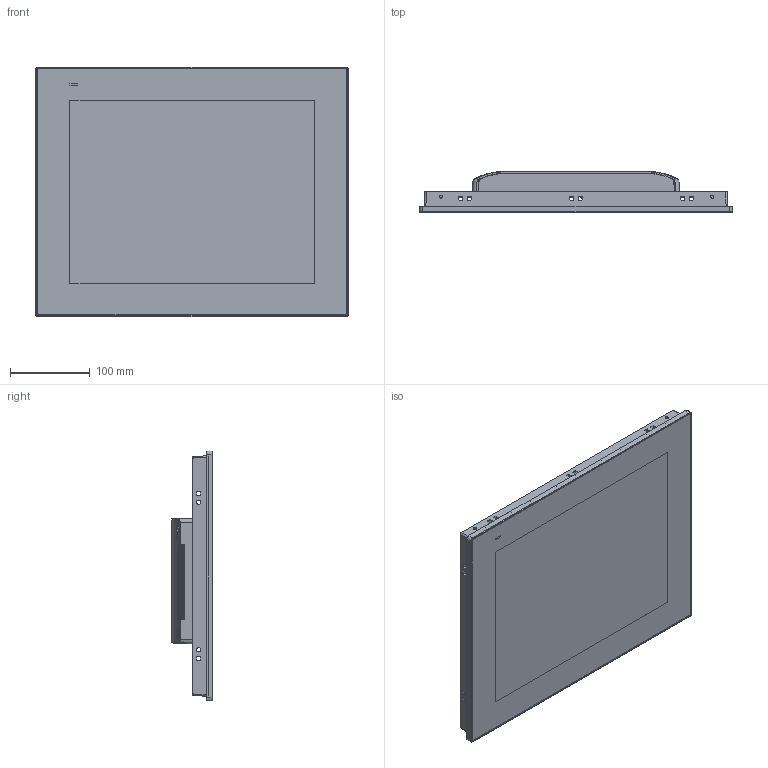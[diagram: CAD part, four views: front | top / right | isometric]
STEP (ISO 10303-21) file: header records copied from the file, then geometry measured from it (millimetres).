
FILE_DESCRIPTION (( 'STEP AP214' ), '1' );
FILE_NAME ('PPC-3150S.STEP', '2017-04-28T08:40:32', ( '' ), ( '' ), 'SwSTEP 2.0', 'SolidWorks 2016', '' );
FILE_SCHEMA (( 'AUTOMOTIVE_DESIGN' ));
Length unit declared in the file: millimetre
Products named in the file (6): MASK-3150S_蕼偞; PPC-3150S; rear assm for PPC-1121_蕼偞; mb cover_wo door w_HDD for PPC-1101_蕼偞; TS-6150C_蕼偞; rear cover for PPC-3150S_蕼偞
Assembly tree (5 placements, depth 3):
  PPC-3150S
    MASK-3150S_蕼偞
    rear cover for PPC-3150S_蕼偞
    TS-6150C_蕼偞
    rear assm for PPC-1121_蕼偞
      mb cover_wo door w_HDD for PPC-1101_蕼偞
Bounding box: 391.4 x 51.2 x 312.5 mm (x, y, z)
Volume: 535654.4 mm3; surface area: 606509.6 mm2
Topology: 4 solids, 4 shells, 1380 faces, 3445 edges, 2102 vertices
Faces by surface type: cylinder 576, plane 408, bspline 274, sphere 76, cone 46
Entity records: 47703 total; most frequent: CARTESIAN_POINT 17333, ORIENTED_EDGE 6890, DIRECTION 5534, EDGE_CURVE 3445, VERTEX_POINT 2102, AXIS2_PLACEMENT_3D 1954, LINE 1626, VECTOR 1626
